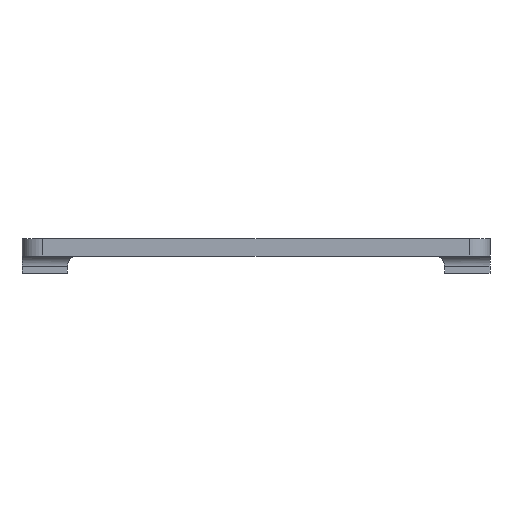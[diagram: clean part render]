
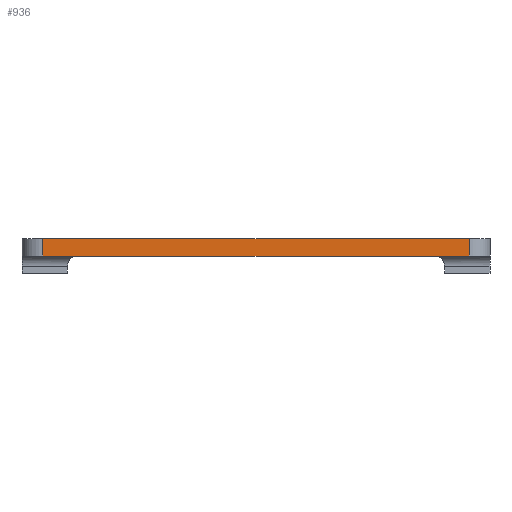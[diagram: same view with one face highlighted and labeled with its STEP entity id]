
A CAD part, front view. The second image highlights one B-rep face of the part: STEP entity #936.
In plain terms, the highlighted planar face has unit normal (0, -1, 0).
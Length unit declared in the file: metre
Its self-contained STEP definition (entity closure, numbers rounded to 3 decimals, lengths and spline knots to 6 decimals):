
#53=LINE('',#1426,#99);
#65=LINE('',#1532,#111);
#81=LINE('',#1593,#127);
#82=LINE('',#1594,#128);
#99=VECTOR('',#1138,1.);
#111=VECTOR('',#1232,1.);
#127=VECTOR('',#1290,1.);
#128=VECTOR('',#1291,1.);
#247=ORIENTED_EDGE('',*,*,#438,.T.);
#248=ORIENTED_EDGE('',*,*,#471,.T.);
#249=ORIENTED_EDGE('',*,*,#386,.F.);
#250=ORIENTED_EDGE('',*,*,#472,.T.);
#386=EDGE_CURVE('',#502,#503,#53,.T.);
#438=EDGE_CURVE('',#555,#554,#65,.T.);
#471=EDGE_CURVE('',#554,#503,#81,.T.);
#472=EDGE_CURVE('',#502,#555,#82,.F.);
#502=VERTEX_POINT('',#1427);
#503=VERTEX_POINT('',#1428);
#554=VERTEX_POINT('',#1531);
#555=VERTEX_POINT('',#1533);
#712=EDGE_LOOP('',(#247,#248,#249,#250));
#844=FACE_BOUND('',#712,.T.);
#922=PLANE('',#1066);
#936=ADVANCED_FACE('',(#844),#922,.T.);
#1066=AXIS2_PLACEMENT_3D('',#1592,#1288,#1289);
#1138=DIRECTION('',(-1.,0.,0.));
#1232=DIRECTION('',(-1.,0.,0.));
#1288=DIRECTION('',(0.,-1.,0.));
#1289=DIRECTION('',(0.,0.,-1.));
#1290=DIRECTION('',(0.,0.,-1.));
#1291=DIRECTION('',(0.,0.,-1.));
#1426=CARTESIAN_POINT('',(0.,-0.085,0.));
#1427=CARTESIAN_POINT('',(0.0615,-0.085,0.));
#1428=CARTESIAN_POINT('',(-0.0615,-0.085,0.));
#1531=CARTESIAN_POINT('',(-0.0615,-0.085,0.005));
#1532=CARTESIAN_POINT('',(0.,-0.085,0.005));
#1533=CARTESIAN_POINT('',(0.0615,-0.085,0.005));
#1592=CARTESIAN_POINT('',(0.,-0.085,0.005));
#1593=CARTESIAN_POINT('',(-0.0615,-0.085,0.));
#1594=CARTESIAN_POINT('',(0.0615,-0.085,0.005));
